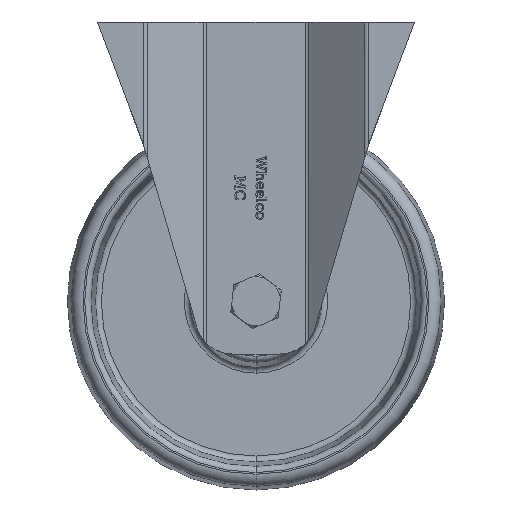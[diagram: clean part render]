
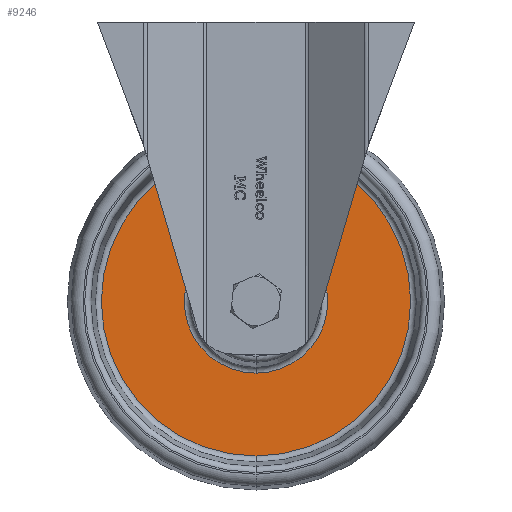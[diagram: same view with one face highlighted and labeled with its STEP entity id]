
A CAD part, top view. The second image highlights one B-rep face of the part: STEP entity #9246.
In plain terms, the highlighted planar face has unit normal (0, 0, 1) as drawn and (0, 1, 0) by its records, which use the part's own axes.
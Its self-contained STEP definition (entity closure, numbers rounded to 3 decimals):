
#588 = CARTESIAN_POINT ( 'NONE',  ( 0., 4., 0. ) ) ;
#903 = CARTESIAN_POINT ( 'NONE',  ( 0., 4., 0. ) ) ;
#1895 = FACE_OUTER_BOUND ( 'NONE', #13915, .T. ) ;
#2217 = CARTESIAN_POINT ( 'NONE',  ( 0., 4., -51.249 ) ) ;
#5427 = AXIS2_PLACEMENT_3D ( 'NONE', #903, #12204, #8677 ) ;
#5555 = DIRECTION ( 'NONE',  ( 0., 1., 0. ) ) ;
#6734 = EDGE_CURVE ( 'NONE', #7052, #19932, #18010, .T. ) ;
#6932 = CIRCLE ( 'NONE', #11202, 51.249 ) ;
#7052 = VERTEX_POINT ( 'NONE', #8056 ) ;
#7281 = AXIS2_PLACEMENT_3D ( 'NONE', #12821, #5555, #8925 ) ;
#7606 = CARTESIAN_POINT ( 'NONE',  ( 0., 4., 0. ) ) ;
#8056 = CARTESIAN_POINT ( 'NONE',  ( 0., 4., -23.79 ) ) ;
#8617 = ORIENTED_EDGE ( 'NONE', *, *, #18347, .F. ) ;
#8677 = DIRECTION ( 'NONE',  ( 0., 0., -1. ) ) ;
#8925 = DIRECTION ( 'NONE',  ( 0., 0., 1. ) ) ;
#9246 = ADVANCED_FACE ( 'NONE', ( #18428, #1895 ), #10748, .T. ) ;
#9931 = CIRCLE ( 'NONE', #22010, 23.79 ) ;
#10230 = AXIS2_PLACEMENT_3D ( 'NONE', #588, #13365, #15314 ) ;
#10748 = PLANE ( 'NONE',  #7281 ) ;
#10817 = CIRCLE ( 'NONE', #5427, 51.249 ) ;
#11202 = AXIS2_PLACEMENT_3D ( 'NONE', #7606, #22704, #22467 ) ;
#12204 = DIRECTION ( 'NONE',  ( 0., -1., 0. ) ) ;
#12821 = CARTESIAN_POINT ( 'NONE',  ( 23.79, 4., 0. ) ) ;
#13127 = ORIENTED_EDGE ( 'NONE', *, *, #22528, .F. ) ;
#13365 = DIRECTION ( 'NONE',  ( 0., -1., 0. ) ) ;
#13915 = EDGE_LOOP ( 'NONE', ( #13127, #8617 ) ) ;
#15314 = DIRECTION ( 'NONE',  ( 0., 0., -1. ) ) ;
#15345 = VERTEX_POINT ( 'NONE', #17200 ) ;
#15642 = ORIENTED_EDGE ( 'NONE', *, *, #6734, .T. ) ;
#16027 = CARTESIAN_POINT ( 'NONE',  ( 0., 4., 0. ) ) ;
#16667 = EDGE_CURVE ( 'NONE', #19932, #7052, #9931, .T. ) ;
#16816 = VERTEX_POINT ( 'NONE', #2217 ) ;
#17200 = CARTESIAN_POINT ( 'NONE',  ( 0., 4., 51.249 ) ) ;
#18010 = CIRCLE ( 'NONE', #10230, 23.79 ) ;
#18205 = EDGE_LOOP ( 'NONE', ( #15642, #23113 ) ) ;
#18347 = EDGE_CURVE ( 'NONE', #15345, #16816, #6932, .T. ) ;
#18428 = FACE_BOUND ( 'NONE', #18205, .T. ) ;
#19820 = DIRECTION ( 'NONE',  ( 0., 0., -1. ) ) ;
#19932 = VERTEX_POINT ( 'NONE', #22505 ) ;
#21652 = DIRECTION ( 'NONE',  ( 0., -1., 0. ) ) ;
#22010 = AXIS2_PLACEMENT_3D ( 'NONE', #16027, #21652, #19820 ) ;
#22467 = DIRECTION ( 'NONE',  ( 0., 0., -1. ) ) ;
#22505 = CARTESIAN_POINT ( 'NONE',  ( 0., 4., 23.79 ) ) ;
#22528 = EDGE_CURVE ( 'NONE', #16816, #15345, #10817, .T. ) ;
#22704 = DIRECTION ( 'NONE',  ( 0., -1., 0. ) ) ;
#23113 = ORIENTED_EDGE ( 'NONE', *, *, #16667, .T. ) ;
